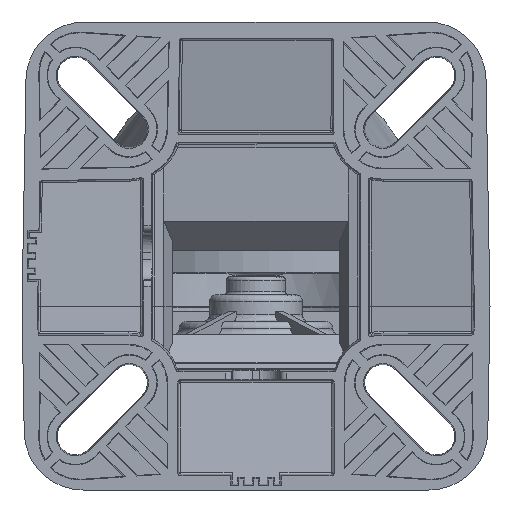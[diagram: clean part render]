
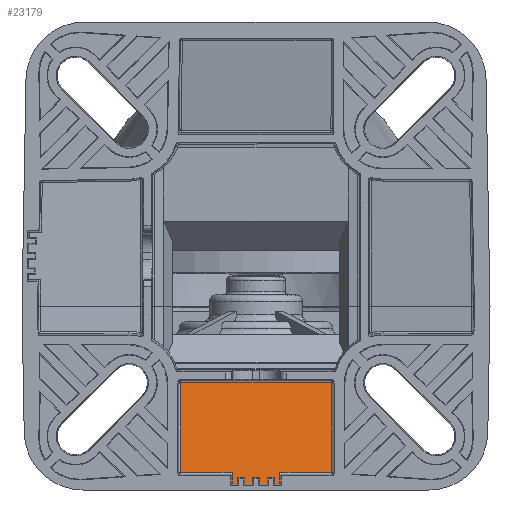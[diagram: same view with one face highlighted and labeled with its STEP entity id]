
A CAD part, front view. The second image highlights one B-rep face of the part: STEP entity #23179.
In plain terms, the highlighted planar face has unit normal (0, -0.985, 0.174).
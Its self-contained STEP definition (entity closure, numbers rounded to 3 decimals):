
#7600=CARTESIAN_POINT('',(-11.222,-3.143,
-18.878));
#7601=CARTESIAN_POINT('',(-11.222,-3.147,
-18.9));
#7602=CARTESIAN_POINT('',(-11.22,-3.155,
-18.943));
#7603=CARTESIAN_POINT('',(-11.221,-3.166,
-19.008));
#7604=CARTESIAN_POINT('',(-11.22,-3.174,
-19.051));
#7605=CARTESIAN_POINT('',(-11.22,-3.177,
-19.073));
#7612=DIRECTION('',(-1.,0.,0.));
#7613=VECTOR('',#7612,0.876);
#7614=CARTESIAN_POINT('',(3.589,-5.836,
-34.139));
#7615=LINE('',#7614,#7613);
#7616=DIRECTION('',(-1.,0.,0.));
#7617=VECTOR('',#7616,1.176);
#7618=CARTESIAN_POINT('',(1.688,-5.836,
-34.139));
#7619=LINE('',#7618,#7617);
#7620=DIRECTION('',(-1.,0.,0.));
#7621=VECTOR('',#7620,1.176);
#7622=CARTESIAN_POINT('',(-0.512,-5.836,
-34.139));
#7623=LINE('',#7622,#7621);
#7624=DIRECTION('',(-1.,0.,0.));
#7625=VECTOR('',#7624,0.876);
#7626=CARTESIAN_POINT('',(-2.712,-5.836,
-34.139));
#7627=LINE('',#7626,#7625);
#7628=DIRECTION('',(0.003,0.174,0.985));
#7629=VECTOR('',#7628,13.516);
#7630=CARTESIAN_POINT('',(-11.265,-5.526,
-32.383));
#7631=LINE('',#7630,#7629);
#7632=DIRECTION('',(0.003,-0.174,-0.985));
#7633=VECTOR('',#7632,13.516);
#7634=CARTESIAN_POINT('',(11.22,-3.177,
-19.073));
#7635=LINE('',#7634,#7633);
#7636=DIRECTION('',(1.,0.,0.));
#7637=VECTOR('',#7636,7.685);
#7638=CARTESIAN_POINT('',(3.58,-5.526,
-32.383));
#7639=LINE('',#7638,#7637);
#7664=CARTESIAN_POINT('',(11.22,-3.177,
-19.073));
#7665=CARTESIAN_POINT('',(11.22,-3.174,
-19.051));
#7666=CARTESIAN_POINT('',(11.22,-3.166,
-19.008));
#7667=CARTESIAN_POINT('',(11.222,-3.155,
-18.943));
#7668=CARTESIAN_POINT('',(11.222,-3.147,
-18.9));
#7669=CARTESIAN_POINT('',(11.223,-3.143,
-18.878));
#7709=DIRECTION('',(-1.,0.,0.));
#7710=VECTOR('',#7709,22.445);
#7711=CARTESIAN_POINT('',(11.223,-3.143,
-18.878));
#7712=LINE('',#7711,#7710);
#7741=DIRECTION('',(-0.005,0.174,0.985));
#7742=VECTOR('',#7741,1.783);
#7743=CARTESIAN_POINT('',(3.589,-5.836,
-34.139));
#7744=LINE('',#7743,#7742);
#7767=DIRECTION('',(-0.003,-0.174,-0.985));
#7768=VECTOR('',#7767,1.028);
#7769=CARTESIAN_POINT('',(2.715,-5.657,
-33.126));
#7770=LINE('',#7769,#7768);
#7771=DIRECTION('',(1.,0.,0.));
#7772=VECTOR('',#7771,1.031);
#7773=CARTESIAN_POINT('',(1.685,-5.657,
-33.126));
#7774=LINE('',#7773,#7772);
#7779=DIRECTION('',(-0.003,0.174,0.985));
#7780=VECTOR('',#7779,1.028);
#7781=CARTESIAN_POINT('',(1.688,-5.836,
-34.139));
#7782=LINE('',#7781,#7780);
#7799=DIRECTION('',(-0.003,-0.174,-0.985));
#7800=VECTOR('',#7799,1.028);
#7801=CARTESIAN_POINT('',(0.515,-5.657,
-33.126));
#7802=LINE('',#7801,#7800);
#7803=DIRECTION('',(1.,0.,0.));
#7804=VECTOR('',#7803,1.031);
#7805=CARTESIAN_POINT('',(-0.515,-5.657,
-33.126));
#7806=LINE('',#7805,#7804);
#7811=DIRECTION('',(-0.003,0.174,0.985));
#7812=VECTOR('',#7811,1.028);
#7813=CARTESIAN_POINT('',(-0.512,-5.836,
-34.139));
#7814=LINE('',#7813,#7812);
#7831=DIRECTION('',(-0.003,-0.174,-0.985));
#7832=VECTOR('',#7831,1.028);
#7833=CARTESIAN_POINT('',(-1.685,-5.657,
-33.126));
#7834=LINE('',#7833,#7832);
#7835=DIRECTION('',(1.,0.,0.));
#7836=VECTOR('',#7835,1.031);
#7837=CARTESIAN_POINT('',(-2.715,-5.657,
-33.126));
#7838=LINE('',#7837,#7836);
#7843=DIRECTION('',(-0.003,0.174,0.985));
#7844=VECTOR('',#7843,1.028);
#7845=CARTESIAN_POINT('',(-2.712,-5.836,
-34.139));
#7846=LINE('',#7845,#7844);
#7869=DIRECTION('',(-0.005,-0.174,-0.985));
#7870=VECTOR('',#7869,1.783);
#7871=CARTESIAN_POINT('',(-3.58,-5.526,
-32.383));
#7872=LINE('',#7871,#7870);
#7920=DIRECTION('',(1.,0.,0.));
#7921=VECTOR('',#7920,7.685);
#7922=CARTESIAN_POINT('',(-11.265,-5.526,
-32.383));
#7923=LINE('',#7922,#7921);
#16247=CARTESIAN_POINT('',(11.22,-3.177,
-19.073));
#16248=VERTEX_POINT('',#16247);
#16249=VERTEX_POINT('',#7669);
#16250=CARTESIAN_POINT('',(11.265,-5.526,
-32.383));
#16251=VERTEX_POINT('',#16250);
#16254=CARTESIAN_POINT('',(3.58,-5.526,
-32.383));
#16255=VERTEX_POINT('',#16254);
#16256=CARTESIAN_POINT('',(3.589,-5.836,
-34.139));
#16257=VERTEX_POINT('',#16256);
#16258=CARTESIAN_POINT('',(2.712,-5.836,
-34.139));
#16259=VERTEX_POINT('',#16258);
#16260=CARTESIAN_POINT('',(2.715,-5.657,
-33.126));
#16261=VERTEX_POINT('',#16260);
#16262=CARTESIAN_POINT('',(1.685,-5.657,
-33.126));
#16263=VERTEX_POINT('',#16262);
#16264=CARTESIAN_POINT('',(1.688,-5.836,
-34.139));
#16265=VERTEX_POINT('',#16264);
#16266=CARTESIAN_POINT('',(0.512,-5.836,
-34.139));
#16267=VERTEX_POINT('',#16266);
#16268=CARTESIAN_POINT('',(0.515,-5.657,
-33.126));
#16269=VERTEX_POINT('',#16268);
#16270=CARTESIAN_POINT('',(-0.515,-5.657,
-33.126));
#16271=VERTEX_POINT('',#16270);
#16272=CARTESIAN_POINT('',(-0.512,-5.836,
-34.139));
#16273=VERTEX_POINT('',#16272);
#16274=CARTESIAN_POINT('',(-1.688,-5.836,
-34.139));
#16275=VERTEX_POINT('',#16274);
#16276=CARTESIAN_POINT('',(-1.685,-5.657,
-33.126));
#16277=VERTEX_POINT('',#16276);
#16278=CARTESIAN_POINT('',(-2.715,-5.657,
-33.126));
#16279=VERTEX_POINT('',#16278);
#16280=CARTESIAN_POINT('',(-2.712,-5.836,
-34.139));
#16281=VERTEX_POINT('',#16280);
#16282=CARTESIAN_POINT('',(-3.589,-5.836,
-34.139));
#16283=VERTEX_POINT('',#16282);
#16284=CARTESIAN_POINT('',(-3.58,-5.526,
-32.383));
#16285=VERTEX_POINT('',#16284);
#16286=CARTESIAN_POINT('',(-11.265,-5.526,
-32.383));
#16287=VERTEX_POINT('',#16286);
#16288=CARTESIAN_POINT('',(-11.22,-3.177,
-19.073));
#16289=VERTEX_POINT('',#16288);
#16290=VERTEX_POINT('',#7600);
#23129=CARTESIAN_POINT('',(-31.5,-2.378,-14.539));
#23130=DIRECTION('',(0.,-0.985,0.174));
#23131=DIRECTION('',(0.,-0.174,-0.985));
#23132=AXIS2_PLACEMENT_3D('',#23129,#23130,#23131);
#23133=PLANE('',#23132);
#23135=ORIENTED_EDGE('',*,*,#23134,.F.);
#23137=ORIENTED_EDGE('',*,*,#23136,.F.);
#23139=ORIENTED_EDGE('',*,*,#23138,.T.);
#23141=ORIENTED_EDGE('',*,*,#23140,.F.);
#23143=ORIENTED_EDGE('',*,*,#23142,.F.);
#23145=ORIENTED_EDGE('',*,*,#23144,.F.);
#23147=ORIENTED_EDGE('',*,*,#23146,.T.);
#23149=ORIENTED_EDGE('',*,*,#23148,.F.);
#23151=ORIENTED_EDGE('',*,*,#23150,.F.);
#23153=ORIENTED_EDGE('',*,*,#23152,.F.);
#23155=ORIENTED_EDGE('',*,*,#23154,.T.);
#23157=ORIENTED_EDGE('',*,*,#23156,.F.);
#23159=ORIENTED_EDGE('',*,*,#23158,.F.);
#23161=ORIENTED_EDGE('',*,*,#23160,.F.);
#23163=ORIENTED_EDGE('',*,*,#23162,.T.);
#23165=ORIENTED_EDGE('',*,*,#23164,.F.);
#23167=ORIENTED_EDGE('',*,*,#23166,.F.);
#23169=ORIENTED_EDGE('',*,*,#23168,.T.);
#23170=ORIENTED_EDGE('',*,*,#23119,.F.);
#23172=ORIENTED_EDGE('',*,*,#23171,.F.);
#23174=ORIENTED_EDGE('',*,*,#23173,.F.);
#23176=ORIENTED_EDGE('',*,*,#23175,.T.);
#23177=EDGE_LOOP('',(#23135,#23137,#23139,#23141,#23143,#23145,#23147,#23149,
#23151,#23153,#23155,#23157,#23159,#23161,#23163,#23165,#23167,#23169,#23170,
#23172,#23174,#23176));
#23178=FACE_OUTER_BOUND('',#23177,.F.);
#23179=ADVANCED_FACE('',(#23178),#23133,.T.);
#7606=B_SPLINE_CURVE_WITH_KNOTS('',3,(#7600,#7601,#7602,#7603,#7604,#7605),
.UNSPECIFIED.,.F.,.F.,(4,1,1,4),(0.,0.333,0.667,1.),
.UNSPECIFIED.);
#7670=B_SPLINE_CURVE_WITH_KNOTS('',3,(#7664,#7665,#7666,#7667,#7668,#7669),
.UNSPECIFIED.,.F.,.F.,(4,1,1,4),(0.,0.333,0.667,1.),
.UNSPECIFIED.);
#23119=EDGE_CURVE('',#16290,#16289,#7606,.T.);
#23134=EDGE_CURVE('',#16255,#16251,#7639,.T.);
#23136=EDGE_CURVE('',#16257,#16255,#7744,.T.);
#23138=EDGE_CURVE('',#16257,#16259,#7615,.T.);
#23140=EDGE_CURVE('',#16261,#16259,#7770,.T.);
#23142=EDGE_CURVE('',#16263,#16261,#7774,.T.);
#23144=EDGE_CURVE('',#16265,#16263,#7782,.T.);
#23146=EDGE_CURVE('',#16265,#16267,#7619,.T.);
#23148=EDGE_CURVE('',#16269,#16267,#7802,.T.);
#23150=EDGE_CURVE('',#16271,#16269,#7806,.T.);
#23152=EDGE_CURVE('',#16273,#16271,#7814,.T.);
#23154=EDGE_CURVE('',#16273,#16275,#7623,.T.);
#23156=EDGE_CURVE('',#16277,#16275,#7834,.T.);
#23158=EDGE_CURVE('',#16279,#16277,#7838,.T.);
#23160=EDGE_CURVE('',#16281,#16279,#7846,.T.);
#23162=EDGE_CURVE('',#16281,#16283,#7627,.T.);
#23164=EDGE_CURVE('',#16285,#16283,#7872,.T.);
#23166=EDGE_CURVE('',#16287,#16285,#7923,.T.);
#23168=EDGE_CURVE('',#16287,#16289,#7631,.T.);
#23171=EDGE_CURVE('',#16249,#16290,#7712,.T.);
#23173=EDGE_CURVE('',#16248,#16249,#7670,.T.);
#23175=EDGE_CURVE('',#16248,#16251,#7635,.T.);
